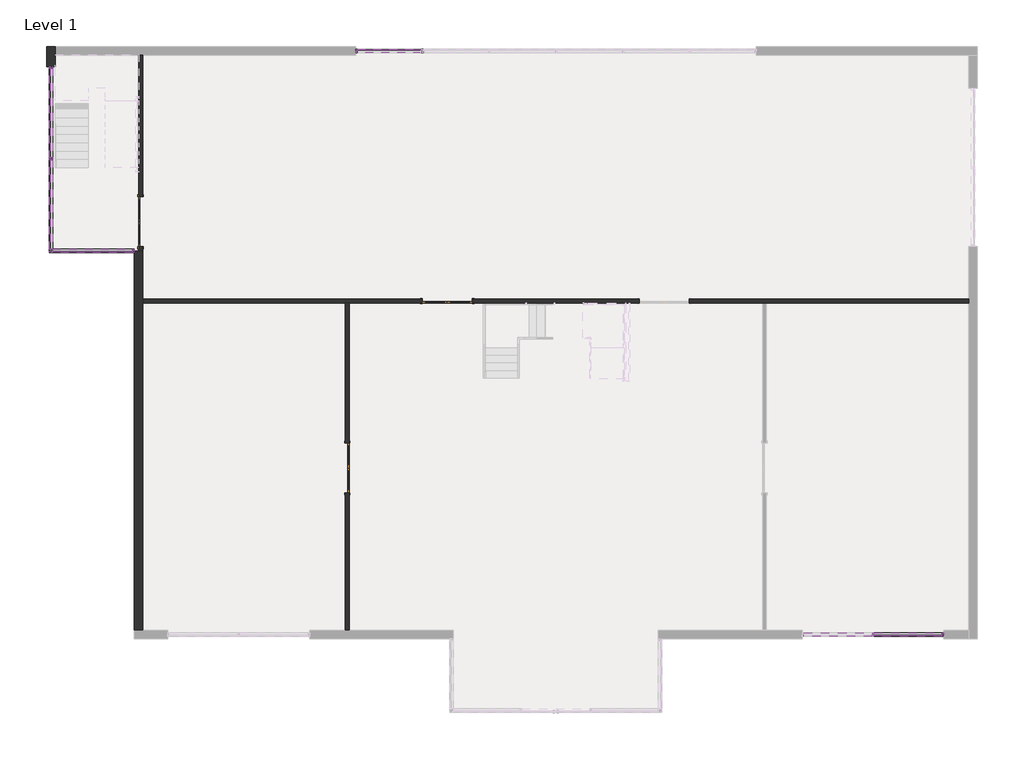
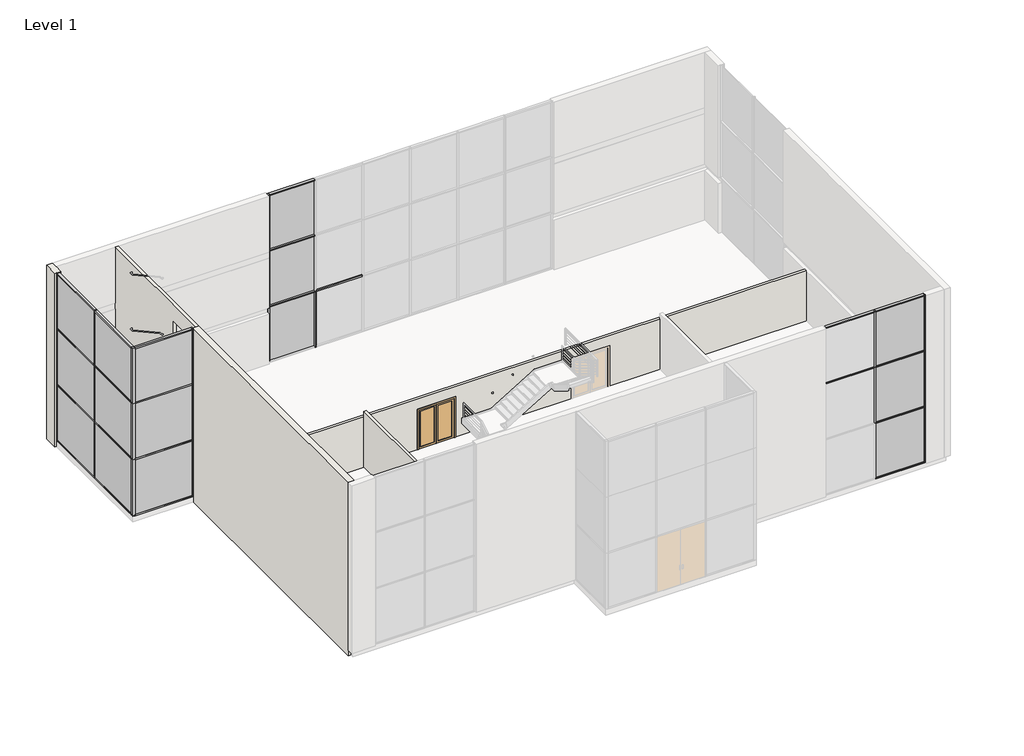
# One storey, part 2 of 7: 50 members, 15 plates, 5 walls, 3 doors.
"""IFC4 building model written with IfcOpenShell, lengths in millimetres."""

from ifc_helpers import new_model, si_unit, origin, place, context, project, spatial, faceted_brep, transform, mapped, element, save
from components import door_cb31edf2, door_3f2f997e, member_092dde94, member_230d3ecf, member_4c95cb00, member_eaba9652, member_3f395ae9, member_b6766b59, member_5ef46571, member_2d82c926, member_728bf22d, member_bbfb4d53, member_051d43dc, member_13b0e0f4, member_a25cc450, member_d457d5cf, member_2ed7bf35, member_11459e8a, member_2d95a7ea, member_6c7b7f5c, system_panel_glazed_54eba105, system_panel_glazed_2b873caf, system_panel_glazed_26911bd7, system_panel_glazed_ddc2896f, system_panel_glazed_01310f2f, system_panel_glazed_8a0dce87, system_panel_glazed_d08b41f0, system_panel_glazed_ece86c27

model = new_model("IFC4")

# Units and contexts
model_context = context("Model", 3, world=origin())
ifc_project = project(units=[si_unit("LENGTHUNIT", "METRE", prefix="MILLI")], contexts=[model_context])

# Site, building, storey
site = spatial("IfcSite", under=ifc_project)
building = spatial("IfcBuilding", under=site)
storey = spatial("IfcBuildingStorey", under=building, Name="Level 1", Elevation=0.0)

# Doors
placement = place(None, origin())
door_shape = door_cb31edf2(model_context)
element("IfcDoor", 1, ObjectType="Door-Double-Glass : 72\" x 84\"", at=placement, inside=storey, context=model_context, shape_type="MappedRepresentation", body=[
    mapped(door_shape, transform((-18248.748632, 9505.1983604, 0.0), x_axis=(0.0, 1.0, 0.0), y_axis=(-1.0, 0.0, 0.0), z_axis=(0.0, 0.0, 1.0))),
])
door_2_shape = door_3f2f997e(model_context)
element("IfcDoor", 2, ObjectType="Door-Double-Glass : 72\" x 84\"", at=placement, inside=storey, context=model_context, shape_type="MappedRepresentation", body=[
    mapped(door_2_shape, transform((-10711.298632, 513.5983604, 0.0), x_axis=(0.0, -1.0, 0.0), y_axis=(1.0, 0.0, 0.0), z_axis=(0.0, 0.0, 1.0))),
])
element("IfcDoor", 3, ObjectType="Door-Double-Glass : 72\" x 84\"", at=placement, inside=storey, context=model_context, shape_type="MappedRepresentation", body=[
    mapped(door_2_shape, transform((-7051.317382, 6611.9796104, 0.0), x_axis=(-1.0, 0.0, 0.0), y_axis=(0.0, -1.0, 0.0), z_axis=(0.0, 0.0, 1.0))),
])

# Members
member_shape = member_092dde94(model_context)
element("IfcMember", 4, ObjectType="Quad Corner Mullion : 5\" x 5\" Quad Corner", at=placement, inside=storey, context=model_context, shape_type="MappedRepresentation", body=[
    mapped(member_shape, transform((-21532.492382, 8438.3983604, 31.75), x_axis=(-1.0, 0.0, 0.0), y_axis=(0.0, 1.0, 0.0), z_axis=(0.0, 0.0, -1.0))),
])
element("IfcMember", 5, ObjectType="Quad Corner Mullion : 5\" x 5\" Quad Corner", at=placement, inside=storey, context=model_context, shape_type="MappedRepresentation", body=[
    mapped(member_shape, transform((-21532.492382, 8438.3983604, 3079.75), x_axis=(-1.0, 0.0, 0.0), y_axis=(0.0, 1.0, 0.0), z_axis=(0.0, 0.0, -1.0))),
])
member_2_shape = member_230d3ecf(model_context)
element("IfcMember", 6, ObjectType="Quad Corner Mullion : 5\" x 5\" Quad Corner", at=placement, inside=storey, context=model_context, shape_type="MappedRepresentation", body=[
    mapped(member_2_shape, transform((-21532.492382, 8438.3983604, 0.0), x_axis=(-1.0, 0.0, 0.0), y_axis=(0.0, 1.0, 0.0), z_axis=(0.0, 0.0, -1.0))),
])
member_3_shape = member_4c95cb00(model_context)
element("IfcMember", 7, ObjectType="Quad Corner Mullion : 5\" x 5\" Quad Corner", at=placement, inside=storey, context=model_context, shape_type="MappedRepresentation", body=[
    mapped(member_3_shape, transform((-21532.492382, 8438.3983604, 6127.75), x_axis=(-1.0, 0.0, 0.0), y_axis=(0.0, 1.0, 0.0), z_axis=(0.0, 0.0, -1.0))),
])
member_4_shape = member_eaba9652(model_context)
element("IfcMember", 8, ObjectType="Rectangular Mullion : 2.5\" x 5\" rectangular", at=placement, inside=storey, context=model_context, shape_type="MappedRepresentation", body=[
    mapped(member_4_shape, transform((-7965.7173818, 15753.5983604, 0.0), x_axis=(-1.0, 0.0, 0.0), y_axis=(0.0, 1.0, 0.0), z_axis=(0.0, 0.0, -1.0))),
])
element("IfcMember", 9, ObjectType="Rectangular Mullion : 2.5\" x 5\" rectangular", at=placement, inside=storey, context=model_context, shape_type="MappedRepresentation", body=[
    mapped(member_4_shape, transform((8493.482618, -5582.4016396, 3048.0), x_axis=(1.0, 0.0, 0.0), y_axis=(0.0, -1.0, 0.0), z_axis=(0.0, 0.0, -1.0))),
])
element("IfcMember", 10, ObjectType="Rectangular Mullion : 2.5\" x 5\" rectangular", at=placement, inside=storey, context=model_context, shape_type="MappedRepresentation", body=[
    mapped(member_4_shape, transform((-21532.492382, 11807.0733604, 31.75), x_axis=(0.0, -1.0, 0.0), y_axis=(-1.0, 0.0, 0.0), z_axis=(0.0, 0.0, -1.0))),
])
element("IfcMember", 11, ObjectType="Rectangular Mullion : 2.5\" x 5\" rectangular", at=placement, inside=storey, context=model_context, shape_type="MappedRepresentation", body=[
    mapped(member_4_shape, transform((-21532.492382, 11807.0733604, 3079.75), x_axis=(0.0, -1.0, 0.0), y_axis=(-1.0, 0.0, 0.0), z_axis=(0.0, 0.0, -1.0))),
])
element("IfcMember", 12, ObjectType="Rectangular Mullion : 2.5\" x 5\" rectangular", at=placement, inside=storey, context=model_context, shape_type="MappedRepresentation", body=[
    mapped(member_4_shape, transform((8493.482618, -5582.4016396, 6096.0), x_axis=(1.0, 0.0, 0.0), y_axis=(0.0, -1.0, 0.0), z_axis=(0.0, 0.0, -1.0))),
])
member_5_shape = member_3f395ae9(model_context)
element("IfcMember", 13, ObjectType="Rectangular Mullion : 2.5\" x 5\" rectangular", at=placement, inside=storey, context=model_context, shape_type="MappedRepresentation", body=[
    mapped(member_5_shape, transform((-10404.117382, 15753.5983604, 0.0), x_axis=(-1.0, 0.0, 0.0), y_axis=(0.0, 1.0, 0.0), z_axis=(0.0, 0.0, -1.0))),
])
element("IfcMember", 14, ObjectType="Rectangular Mullion : 2.5\" x 5\" rectangular", at=placement, inside=storey, context=model_context, shape_type="MappedRepresentation", body=[
    mapped(member_5_shape, transform((11084.282618, -5582.4016396, 0.0), x_axis=(1.0, 0.0, 0.0), y_axis=(0.0, -1.0, 0.0), z_axis=(0.0, 0.0, -1.0))),
])
element("IfcMember", 15, ObjectType="Rectangular Mullion : 2.5\" x 5\" rectangular", at=placement, inside=storey, context=model_context, shape_type="MappedRepresentation", body=[
    mapped(member_5_shape, transform((-10404.117382, 15753.5983604, 3048.0), x_axis=(-1.0, 0.0, 0.0), y_axis=(0.0, 1.0, 0.0), z_axis=(0.0, 0.0, -1.0))),
])
element("IfcMember", 16, ObjectType="Rectangular Mullion : 2.5\" x 5\" rectangular", at=placement, inside=storey, context=model_context, shape_type="MappedRepresentation", body=[
    mapped(member_5_shape, transform((11084.282618, -5582.4016396, 3048.0), x_axis=(1.0, 0.0, 0.0), y_axis=(0.0, -1.0, 0.0), z_axis=(0.0, 0.0, -1.0))),
])
element("IfcMember", 17, ObjectType="Rectangular Mullion : 2.5\" x 5\" rectangular", at=placement, inside=storey, context=model_context, shape_type="MappedRepresentation", body=[
    mapped(member_5_shape, transform((-10404.117382, 15753.5983604, 6096.0), x_axis=(-1.0, 0.0, 0.0), y_axis=(0.0, 1.0, 0.0), z_axis=(0.0, 0.0, -1.0))),
])
element("IfcMember", 18, ObjectType="Rectangular Mullion : 2.5\" x 5\" rectangular", at=placement, inside=storey, context=model_context, shape_type="MappedRepresentation", body=[
    mapped(member_5_shape, transform((11084.282618, -5582.4016396, 6096.0), x_axis=(1.0, 0.0, 0.0), y_axis=(0.0, -1.0, 0.0), z_axis=(0.0, 0.0, -1.0))),
])
element("IfcMember", 19, ObjectType="Rectangular Mullion : 2.5\" x 5\" rectangular", at=placement, inside=storey, context=model_context, shape_type="MappedRepresentation", body=[
    mapped(member_5_shape, transform((-21532.492382, 15175.7483604, 3079.75), x_axis=(0.0, 1.0, 0.0), y_axis=(-1.0, 0.0, 0.0), z_axis=(0.0, 0.0, 1.0))),
])
element("IfcMember", 20, ObjectType="Rectangular Mullion : 2.5\" x 5\" rectangular", at=placement, inside=storey, context=model_context, shape_type="MappedRepresentation", body=[
    mapped(member_5_shape, transform((-21532.492382, 15175.7483604, 6127.75), x_axis=(0.0, 1.0, 0.0), y_axis=(-1.0, 0.0, 0.0), z_axis=(0.0, 0.0, 1.0))),
])
element("IfcMember", 21, ObjectType="Rectangular Mullion : 2.5\" x 5\" rectangular", at=placement, inside=storey, context=model_context, shape_type="MappedRepresentation", body=[
    mapped(member_5_shape, transform((-18484.492382, 8438.3983604, 3079.75), x_axis=(1.0, 0.0, 0.0), y_axis=(0.0, 1.0, 0.0), z_axis=(0.0, 0.0, 1.0))),
])
element("IfcMember", 22, ObjectType="Rectangular Mullion : 2.5\" x 5\" rectangular", at=placement, inside=storey, context=model_context, shape_type="MappedRepresentation", body=[
    mapped(member_5_shape, transform((-18484.492382, 8438.3983604, 6127.75), x_axis=(1.0, 0.0, 0.0), y_axis=(0.0, 1.0, 0.0), z_axis=(0.0, 0.0, 1.0))),
])
member_6_shape = member_b6766b59(model_context)
element("IfcMember", 23, ObjectType="Rectangular Mullion : 2.5\" x 5\" rectangular", at=placement, inside=storey, context=model_context, shape_type="MappedRepresentation", body=[
    mapped(member_6_shape, transform((11020.782618, -5582.4016396, 9144.0), x_axis=(0.0, 0.0, 1.0), y_axis=(0.0, -1.0, 0.0), z_axis=(1.0, 0.0, 0.0))),
])
element("IfcMember", 24, ObjectType="Rectangular Mullion : 2.5\" x 5\" rectangular", at=placement, inside=storey, context=model_context, shape_type="MappedRepresentation", body=[
    mapped(member_6_shape, transform((8461.732618, -5582.4016396, 9144.0), x_axis=(0.0, 0.0, 1.0), y_axis=(0.0, -1.0, 0.0), z_axis=(1.0, 0.0, 0.0))),
])
element("IfcMember", 25, ObjectType="Rectangular Mullion : 2.5\" x 5\" rectangular", at=placement, inside=storey, context=model_context, shape_type="MappedRepresentation", body=[
    mapped(member_6_shape, transform((8525.232618, -5582.4016396, 0.0), x_axis=(0.0, 0.0, -1.0), y_axis=(0.0, -1.0, 0.0), z_axis=(-1.0, 0.0, 0.0))),
])
member_7_shape = member_5ef46571(model_context)
element("IfcMember", 26, ObjectType="Rectangular Mullion : 2.5\" x 5\" rectangular", at=placement, inside=storey, context=model_context, shape_type="MappedRepresentation", body=[
    mapped(member_7_shape, transform((11020.782618, -5582.4016396, 3048.0), x_axis=(0.0, 0.0, 1.0), y_axis=(0.0, -1.0, 0.0), z_axis=(1.0, 0.0, 0.0))),
])
element("IfcMember", 27, ObjectType="Rectangular Mullion : 2.5\" x 5\" rectangular", at=placement, inside=storey, context=model_context, shape_type="MappedRepresentation", body=[
    mapped(member_7_shape, transform((8461.732618, -5582.4016396, 6096.0), x_axis=(0.0, 0.0, 1.0), y_axis=(0.0, -1.0, 0.0), z_axis=(1.0, 0.0, 0.0))),
])
element("IfcMember", 28, ObjectType="Rectangular Mullion : 2.5\" x 5\" rectangular", at=placement, inside=storey, context=model_context, shape_type="MappedRepresentation", body=[
    mapped(member_7_shape, transform((11020.782618, -5582.4016396, 6096.0), x_axis=(0.0, 0.0, 1.0), y_axis=(0.0, -1.0, 0.0), z_axis=(1.0, 0.0, 0.0))),
])
member_8_shape = member_2d82c926(model_context)
element("IfcMember", 29, ObjectType="Rectangular Mullion : 2.5\" x 5\" rectangular", at=placement, inside=storey, context=model_context, shape_type="MappedRepresentation", body=[
    mapped(member_8_shape, transform((-21532.492382, 8501.8983604, 9144.0), x_axis=(0.0, 0.0, 1.0), y_axis=(-1.0, 0.0, 0.0), z_axis=(0.0, -1.0, 0.0))),
])
element("IfcMember", 30, ObjectType="Rectangular Mullion : 2.5\" x 5\" rectangular", at=placement, inside=storey, context=model_context, shape_type="MappedRepresentation", body=[
    mapped(member_8_shape, transform((-21532.492382, 11838.8233604, 9144.0), x_axis=(0.0, 0.0, 1.0), y_axis=(-1.0, 0.0, 0.0), z_axis=(0.0, -1.0, 0.0))),
])
element("IfcMember", 31, ObjectType="Rectangular Mullion : 2.5\" x 5\" rectangular", at=placement, inside=storey, context=model_context, shape_type="MappedRepresentation", body=[
    mapped(member_8_shape, transform((-21532.492382, 15112.2483604, 0.0), x_axis=(0.0, 0.0, -1.0), y_axis=(-1.0, 0.0, 0.0), z_axis=(0.0, 1.0, 0.0))),
])
element("IfcMember", 32, ObjectType="Rectangular Mullion : 2.5\" x 5\" rectangular", at=placement, inside=storey, context=model_context, shape_type="MappedRepresentation", body=[
    mapped(member_8_shape, transform((-21532.492382, 11775.3233604, 0.0), x_axis=(0.0, 0.0, -1.0), y_axis=(-1.0, 0.0, 0.0), z_axis=(0.0, 1.0, 0.0))),
])
member_9_shape = member_728bf22d(model_context)
element("IfcMember", 33, ObjectType="Rectangular Mullion : 2.5\" x 5\" rectangular", at=placement, inside=storey, context=model_context, shape_type="MappedRepresentation", body=[
    mapped(member_9_shape, transform((-21532.492382, 11838.8233604, 31.75), x_axis=(0.0, 0.0, 1.0), y_axis=(-1.0, 0.0, 0.0), z_axis=(0.0, -1.0, 0.0))),
])
element("IfcMember", 34, ObjectType="Rectangular Mullion : 2.5\" x 5\" rectangular", at=placement, inside=storey, context=model_context, shape_type="MappedRepresentation", body=[
    mapped(member_9_shape, transform((-21532.492382, 8501.8983604, 31.75), x_axis=(0.0, 0.0, 1.0), y_axis=(-1.0, 0.0, 0.0), z_axis=(0.0, -1.0, 0.0))),
])
element("IfcMember", 35, ObjectType="Rectangular Mullion : 2.5\" x 5\" rectangular", at=placement, inside=storey, context=model_context, shape_type="MappedRepresentation", body=[
    mapped(member_9_shape, transform((-21532.492382, 11838.8233604, 3079.75), x_axis=(0.0, 0.0, 1.0), y_axis=(-1.0, 0.0, 0.0), z_axis=(0.0, -1.0, 0.0))),
])
element("IfcMember", 36, ObjectType="Rectangular Mullion : 2.5\" x 5\" rectangular", at=placement, inside=storey, context=model_context, shape_type="MappedRepresentation", body=[
    mapped(member_9_shape, transform((-21532.492382, 8501.8983604, 3079.75), x_axis=(0.0, 0.0, 1.0), y_axis=(-1.0, 0.0, 0.0), z_axis=(0.0, -1.0, 0.0))),
])
element("IfcMember", 37, ObjectType="Rectangular Mullion : 2.5\" x 5\" rectangular", at=placement, inside=storey, context=model_context, shape_type="MappedRepresentation", body=[
    mapped(member_9_shape, transform((-21532.492382, 11838.8233604, 6127.75), x_axis=(0.0, 0.0, 1.0), y_axis=(-1.0, 0.0, 0.0), z_axis=(0.0, -1.0, 0.0))),
])
element("IfcMember", 38, ObjectType="Rectangular Mullion : 2.5\" x 5\" rectangular", at=placement, inside=storey, context=model_context, shape_type="MappedRepresentation", body=[
    mapped(member_9_shape, transform((-21532.492382, 8501.8983604, 6127.75), x_axis=(0.0, 0.0, 1.0), y_axis=(-1.0, 0.0, 0.0), z_axis=(0.0, -1.0, 0.0))),
])
member_10_shape = member_bbfb4d53(model_context)
element("IfcMember", 39, ObjectType="Rectangular Mullion : 2.5\" x 5\" rectangular", at=placement, inside=storey, context=model_context, shape_type="MappedRepresentation", body=[
    mapped(member_10_shape, transform((-18484.492382, 8438.3983604, 31.75), x_axis=(1.0, 0.0, 0.0), y_axis=(0.0, 1.0, 0.0), z_axis=(0.0, 0.0, 1.0))),
])
member_11_shape = member_051d43dc(model_context)
element("IfcMember", 40, ObjectType="Rectangular Mullion : 2.5\" x 5\" rectangular", at=placement, inside=storey, context=model_context, shape_type="MappedRepresentation", body=[
    mapped(member_11_shape, transform((-21532.492382, 11807.0733604, 0.0), x_axis=(0.0, -1.0, 0.0), y_axis=(-1.0, 0.0, 0.0), z_axis=(0.0, 0.0, -1.0))),
])
element("IfcMember", 41, ObjectType="Rectangular Mullion : 2.5\" x 5\" rectangular", at=placement, inside=storey, context=model_context, shape_type="MappedRepresentation", body=[
    mapped(member_10_shape, transform((-21532.492382, 15175.7483604, 31.75), x_axis=(0.0, 1.0, 0.0), y_axis=(-1.0, 0.0, 0.0), z_axis=(0.0, 0.0, 1.0))),
])
member_12_shape = member_13b0e0f4(model_context)
element("IfcMember", 42, ObjectType="Rectangular Mullion : 2.5\" x 5\" rectangular", at=placement, inside=storey, context=model_context, shape_type="MappedRepresentation", body=[
    mapped(member_12_shape, transform((-18484.492382, 8438.3983604, 9144.0), x_axis=(1.0, 0.0, 0.0), y_axis=(0.0, 1.0, 0.0), z_axis=(0.0, 0.0, 1.0))),
])
member_13_shape = member_a25cc450(model_context)
element("IfcMember", 43, ObjectType="Rectangular Mullion : 2.5\" x 5\" rectangular", at=placement, inside=storey, context=model_context, shape_type="MappedRepresentation", body=[
    mapped(member_13_shape, transform((-21532.492382, 11807.0733604, 6127.75), x_axis=(0.0, -1.0, 0.0), y_axis=(-1.0, 0.0, 0.0), z_axis=(0.0, 0.0, -1.0))),
])
element("IfcMember", 44, ObjectType="Rectangular Mullion : 2.5\" x 5\" rectangular", at=placement, inside=storey, context=model_context, shape_type="MappedRepresentation", body=[
    mapped(member_12_shape, transform((-21532.492382, 15175.7483604, 9144.0), x_axis=(0.0, 1.0, 0.0), y_axis=(-1.0, 0.0, 0.0), z_axis=(0.0, 0.0, 1.0))),
])
member_14_shape = member_d457d5cf(model_context)
element("IfcMember", 45, ObjectType="Rectangular Mullion : 2.5\" x 5\" rectangular", at=placement, inside=storey, context=model_context, shape_type="MappedRepresentation", body=[
    mapped(member_14_shape, transform((-21468.992382, 8438.3983604, 9144.0), x_axis=(0.0, 0.0, 1.0), y_axis=(0.0, 1.0, 0.0), z_axis=(-1.0, 0.0, 0.0))),
])
element("IfcMember", 46, ObjectType="Rectangular Mullion : 2.5\" x 5\" rectangular", at=placement, inside=storey, context=model_context, shape_type="MappedRepresentation", body=[
    mapped(member_14_shape, transform((-18547.992382, 8438.3983604, 0.0), x_axis=(0.0, 0.0, -1.0), y_axis=(0.0, 1.0, 0.0), z_axis=(1.0, 0.0, 0.0))),
])
member_15_shape = member_2ed7bf35(model_context)
element("IfcMember", 47, ObjectType="Rectangular Mullion : 2.5\" x 5\" rectangular", at=placement, inside=storey, context=model_context, shape_type="MappedRepresentation", body=[
    mapped(member_15_shape, transform((-21468.992382, 8438.3983604, 31.75), x_axis=(0.0, 0.0, 1.0), y_axis=(0.0, 1.0, 0.0), z_axis=(-1.0, 0.0, 0.0))),
])
element("IfcMember", 48, ObjectType="Rectangular Mullion : 2.5\" x 5\" rectangular", at=placement, inside=storey, context=model_context, shape_type="MappedRepresentation", body=[
    mapped(member_15_shape, transform((-21468.992382, 8438.3983604, 3079.75), x_axis=(0.0, 0.0, 1.0), y_axis=(0.0, 1.0, 0.0), z_axis=(-1.0, 0.0, 0.0))),
])
element("IfcMember", 49, ObjectType="Rectangular Mullion : 2.5\" x 5\" rectangular", at=placement, inside=storey, context=model_context, shape_type="MappedRepresentation", body=[
    mapped(member_15_shape, transform((-21468.992382, 8438.3983604, 6127.75), x_axis=(0.0, 0.0, 1.0), y_axis=(0.0, 1.0, 0.0), z_axis=(-1.0, 0.0, 0.0))),
])
member_16_shape = member_11459e8a(model_context)
element("IfcMember", 50, ObjectType="Rectangular Mullion : 2.5\" x 5\" rectangular", at=placement, inside=storey, context=model_context, shape_type="MappedRepresentation", body=[
    mapped(member_16_shape, transform((-10340.617382, 15753.5983604, 9144.0), x_axis=(0.0, 0.0, 1.0), y_axis=(0.0, 1.0, 0.0), z_axis=(-1.0, 0.0, 0.0))),
])
member_17_shape = member_2d95a7ea(model_context)
element("IfcMember", 51, ObjectType="Rectangular Mullion : 2.5\" x 5\" rectangular", at=placement, inside=storey, context=model_context, shape_type="MappedRepresentation", body=[
    mapped(member_17_shape, transform((-10340.617382, 15753.5983604, 3048.0), x_axis=(0.0, 0.0, 1.0), y_axis=(0.0, 1.0, 0.0), z_axis=(-1.0, 0.0, 0.0))),
])
element("IfcMember", 52, ObjectType="Rectangular Mullion : 2.5\" x 5\" rectangular", at=placement, inside=storey, context=model_context, shape_type="MappedRepresentation", body=[
    mapped(member_17_shape, transform((-10340.617382, 15753.5983604, 6096.0), x_axis=(0.0, 0.0, 1.0), y_axis=(0.0, 1.0, 0.0), z_axis=(-1.0, 0.0, 0.0))),
])
member_18_shape = member_6c7b7f5c(model_context)
element("IfcMember", 53, ObjectType="Rectangular Mullion : 2.5\" x 5\" rectangular", at=placement, inside=storey, context=model_context, shape_type="MappedRepresentation", body=[
    mapped(member_18_shape, transform((-7933.9673818, 15753.5983604, 3048.0), x_axis=(0.0, 0.0, 1.0), y_axis=(0.0, 1.0, 0.0), z_axis=(-1.0, 0.0, 0.0))),
])

# Plates
system_panel_glazed_shape = system_panel_glazed_54eba105(model_context)
element("IfcPlate", 54, ObjectType="System Panel : Glazed", at=placement, inside=storey, context=model_context, shape_type="MappedRepresentation", body=[
    mapped(system_panel_glazed_shape, transform((9773.007618, -5582.4016396, 63.5), x_axis=(1.0, 0.0, 0.0), y_axis=(0.0, 1.0, 0.0), z_axis=(0.0, 0.0, 1.0))),
])
element("IfcPlate", 55, ObjectType="System Panel : Glazed", at=placement, inside=storey, context=model_context, shape_type="MappedRepresentation", body=[
    mapped(system_panel_glazed_shape, transform((9773.007618, -5582.4016396, 6127.75), x_axis=(1.0, 0.0, 0.0), y_axis=(0.0, 1.0, 0.0), z_axis=(0.0, 0.0, 1.0))),
])
system_panel_glazed_2_shape = system_panel_glazed_2b873caf(model_context)
element("IfcPlate", 56, ObjectType="System Panel : Glazed", at=placement, inside=storey, context=model_context, shape_type="MappedRepresentation", body=[
    mapped(system_panel_glazed_2_shape, transform((9773.007618, -5582.4016396, 3079.75), x_axis=(1.0, 0.0, 0.0), y_axis=(0.0, 1.0, 0.0), z_axis=(0.0, 0.0, 1.0))),
])
system_panel_glazed_3_shape = system_panel_glazed_26911bd7(model_context)
element("IfcPlate", 57, ObjectType="System Panel : Glazed", at=placement, inside=storey, context=model_context, shape_type="MappedRepresentation", body=[
    mapped(system_panel_glazed_3_shape, transform((-21532.492382, 13475.5358604, 63.5), x_axis=(0.0, -1.0, 0.0), y_axis=(1.0, 0.0, 0.0), z_axis=(0.0, 0.0, 1.0))),
])
element("IfcPlate", 58, ObjectType="System Panel : Glazed", at=placement, inside=storey, context=model_context, shape_type="MappedRepresentation", body=[
    mapped(system_panel_glazed_3_shape, transform((-21532.492382, 13475.5358604, 3111.5), x_axis=(0.0, -1.0, 0.0), y_axis=(1.0, 0.0, 0.0), z_axis=(0.0, 0.0, 1.0))),
])
element("IfcPlate", 59, ObjectType="System Panel : Glazed", at=placement, inside=storey, context=model_context, shape_type="MappedRepresentation", body=[
    mapped(system_panel_glazed_3_shape, transform((-21532.492382, 10138.6108604, 63.5), x_axis=(0.0, -1.0, 0.0), y_axis=(1.0, 0.0, 0.0), z_axis=(0.0, 0.0, 1.0))),
])
element("IfcPlate", 60, ObjectType="System Panel : Glazed", at=placement, inside=storey, context=model_context, shape_type="MappedRepresentation", body=[
    mapped(system_panel_glazed_3_shape, transform((-21532.492382, 10138.6108604, 3111.5), x_axis=(0.0, -1.0, 0.0), y_axis=(1.0, 0.0, 0.0), z_axis=(0.0, 0.0, 1.0))),
])
system_panel_glazed_4_shape = system_panel_glazed_ddc2896f(model_context)
element("IfcPlate", 61, ObjectType="System Panel : Glazed", at=placement, inside=storey, context=model_context, shape_type="MappedRepresentation", body=[
    mapped(system_panel_glazed_4_shape, transform((-21532.492382, 13475.5358604, 6159.5), x_axis=(0.0, -1.0, 0.0), y_axis=(1.0, 0.0, 0.0), z_axis=(0.0, 0.0, 1.0))),
])
element("IfcPlate", 62, ObjectType="System Panel : Glazed", at=placement, inside=storey, context=model_context, shape_type="MappedRepresentation", body=[
    mapped(system_panel_glazed_4_shape, transform((-21532.492382, 10138.6108604, 6159.5), x_axis=(0.0, -1.0, 0.0), y_axis=(1.0, 0.0, 0.0), z_axis=(0.0, 0.0, 1.0))),
])
system_panel_glazed_5_shape = system_panel_glazed_01310f2f(model_context)
element("IfcPlate", 63, ObjectType="System Panel : Glazed", at=placement, inside=storey, context=model_context, shape_type="MappedRepresentation", body=[
    mapped(system_panel_glazed_5_shape, transform((-20008.492382, 8438.3983604, 63.5), x_axis=(-1.0, 0.0, 0.0), y_axis=(0.0, -1.0, 0.0), z_axis=(0.0, 0.0, 1.0))),
])
element("IfcPlate", 64, ObjectType="System Panel : Glazed", at=placement, inside=storey, context=model_context, shape_type="MappedRepresentation", body=[
    mapped(system_panel_glazed_5_shape, transform((-20008.492382, 8438.3983604, 3111.5), x_axis=(-1.0, 0.0, 0.0), y_axis=(0.0, -1.0, 0.0), z_axis=(0.0, 0.0, 1.0))),
])
system_panel_glazed_6_shape = system_panel_glazed_8a0dce87(model_context)
element("IfcPlate", 65, ObjectType="System Panel : Glazed", at=placement, inside=storey, context=model_context, shape_type="MappedRepresentation", body=[
    mapped(system_panel_glazed_6_shape, transform((-20008.492382, 8438.3983604, 6159.5), x_axis=(-1.0, 0.0, 0.0), y_axis=(0.0, -1.0, 0.0), z_axis=(0.0, 0.0, 1.0))),
])
system_panel_glazed_7_shape = system_panel_glazed_d08b41f0(model_context)
element("IfcPlate", 66, ObjectType="System Panel : Glazed", at=placement, inside=storey, context=model_context, shape_type="MappedRepresentation", body=[
    mapped(system_panel_glazed_7_shape, transform((-9169.0423819, 15753.5983604, 63.5), x_axis=(-1.0, 0.0, 0.0), y_axis=(0.0, -1.0, 0.0), z_axis=(0.0, 0.0, 1.0))),
])
element("IfcPlate", 67, ObjectType="System Panel : Glazed", at=placement, inside=storey, context=model_context, shape_type="MappedRepresentation", body=[
    mapped(system_panel_glazed_7_shape, transform((-9169.0423819, 15753.5983604, 6127.75), x_axis=(-1.0, 0.0, 0.0), y_axis=(0.0, -1.0, 0.0), z_axis=(0.0, 0.0, 1.0))),
])
system_panel_glazed_8_shape = system_panel_glazed_ece86c27(model_context)
element("IfcPlate", 68, ObjectType="System Panel : Glazed", at=placement, inside=storey, context=model_context, shape_type="MappedRepresentation", body=[
    mapped(system_panel_glazed_8_shape, transform((-9169.0423819, 15753.5983604, 3079.75), x_axis=(-1.0, 0.0, 0.0), y_axis=(0.0, -1.0, 0.0), z_axis=(0.0, 0.0, 1.0))),
])

# Walls
element("IfcWall", 69, ObjectType="Exterior - EIFS on Mtl. Stud", at=placement, inside=storey, context=model_context, shape_type="Brep", body=[
    faceted_brep([(-18173.342382, 8438.3983604, 2724.15), (-18173.342382, -5426.8266396, 2724.15), (-18173.342382, -5426.8266396, 0.0), (-18173.342382, 6539.7483604, 0.0), (-18173.342382, 6679.4483604, 0.0), (-18173.342382, 8438.3983604, 0.0), (-18173.342382, 8438.3983604, 9144.0), (-18173.342382, 6679.4483604, 9144.0), (-18173.342382, 6539.7483604, 9144.0), (-18173.342382, -5426.8266396, 9144.0), (-18173.342382, -5426.8266396, 3048.0), (-18173.342382, 6539.7483604, 3048.0), (-18173.342382, 6679.4483604, 3048.0), (-18173.342382, 8438.3983604, 3048.0), (-18484.492382, -5426.8266396, 9144.0), (-18484.492382, 8438.3983604, 9144.0), (-18484.492382, 8438.3983604, 3048.0), (-18484.492382, 8438.3983604, 2724.15), (-18484.492382, 8438.3983604, 0.0), (-18484.492382, 8374.8983604, 0.0), (-18484.492382, 8374.8983604, -304.8), (-18484.492382, -5426.8266396, -304.8), (-18484.492382, -5426.8266396, 0.0), (-18338.442382, 8374.8983604, -304.8), (-18338.442382, -5426.8266396, -304.8), (-18328.917382, 8438.3983604, 9144.0), (-18338.442382, 8438.3983604, 3048.0), (-18338.442382, 8438.3983604, 2724.15), (-18328.917382, 8438.3983604, 0.0), (-18338.442382, -5426.8266396, 0.0), (-18338.442382, -5426.8266396, 2724.15), (-18338.442382, -5426.8266396, 3048.0), (-18338.442382, 8374.8983604, 0.0)], [[[0, 1, 2, 3, 4, 5]], [[6, 7, 8, 9, 10, 11, 12, 13]], [[14, 15, 16, 17, 18, 19, 20, 21, 22]], [[21, 20, 23, 24]], [[15, 25, 6, 13, 26, 27, 0, 5, 28, 18, 17, 16]], [[9, 8, 7, 6, 25, 15, 14]], [[9, 14, 22, 21, 24, 29, 2, 1, 30, 31, 10]], [[27, 30, 1, 0]], [[31, 26, 13, 12, 11, 10]], [[30, 27, 26, 31]], [[29, 32, 19, 18, 28, 5, 4, 3, 2]], [[23, 32, 29, 24]], [[32, 23, 20, 19]]]),
])
element("IfcWall", 70, ObjectType="Exterior - EIFS on Mtl. Stud", at=placement, inside=storey, context=model_context, shape_type="Brep", body=[
    faceted_brep([(-21688.067382, 15909.1733604, -304.8), (-21688.067382, 15175.7483604, -304.8), (-21688.067382, 15175.7483604, 9144.0), (-21688.067382, 15909.1733604, 9144.0), (-21376.917382, 15909.1733604, -304.8), (-21376.917382, 15909.1733604, 0.0), (-21376.917382, 15909.1733604, 9144.0), (-21376.917382, 15598.0233604, 9144.0), (-21376.917382, 15175.7483604, 9144.0), (-21376.917382, 15175.7483604, -304.8)], [[[0, 1, 2, 3]], [[4, 5, 6, 7, 8, 9]], [[1, 0, 4, 9]], [[2, 1, 9, 8]], [[3, 2, 8, 7, 6]], [[0, 3, 6, 5, 4]]]),
])
element("IfcWall", 71, ObjectType="Interior - 5 1/2\" Partition (1-hr)", at=placement, inside=storey, context=model_context, shape_type="Brep", body=[
    faceted_brep([(-6136.917382, 6539.7483604, 0.0), (-40.917382, 6539.7483604, 0.0), (-40.917382, 6539.7483604, 2133.6), (1787.882618, 6539.7483604, 2133.6), (1787.882618, 6539.7483604, 0.0), (4461.232618, 6539.7483604, 0.0), (4600.932618, 6539.7483604, 0.0), (11995.507618, 6539.7483604, 0.0), (11995.507618, 6539.7483604, 2743.2), (-18173.342382, 6539.7483604, 2743.2), (-18173.342382, 6539.7483604, 0.0), (-10778.767382, 6539.7483604, 0.0), (-10639.067382, 6539.7483604, 0.0), (-7965.717382, 6539.7483604, 0.0), (-7965.717382, 6539.7483604, 2133.6), (-6136.917382, 6539.7483604, 2133.6), (-40.917382, 6679.4483604, 2133.6), (-40.917382, 6679.4483604, 0.0), (-6136.917382, 6679.4483604, 0.0), (-6136.917382, 6679.4483604, 2133.6), (-7965.717382, 6679.4483604, 2133.6), (-7965.717382, 6679.4483604, 0.0), (-18173.342382, 6679.4483604, 0.0), (-18173.342382, 6679.4483604, 2743.2), (11995.507618, 6679.4483604, 2743.2), (11995.507618, 6679.4483604, 0.0), (1787.882618, 6679.4483604, 0.0), (1787.882618, 6679.4483604, 2133.6)], [[[0, 1, 2, 3, 4, 5, 6, 7, 8, 9, 10, 11, 12, 13, 14, 15]], [[16, 17, 18, 19, 20, 21, 22, 23, 24, 25, 26, 27]], [[22, 21, 13, 12, 11, 10]], [[26, 25, 7, 6, 5, 4]], [[18, 17, 1, 0]], [[9, 8, 24, 23]], [[8, 7, 25, 24]], [[10, 9, 23, 22]], [[14, 13, 21, 20]], [[15, 14, 20, 19]], [[0, 15, 19, 18]], [[2, 1, 17, 16]], [[3, 2, 16, 27]], [[4, 3, 27, 26]]]),
])
element("IfcWall", 72, ObjectType="Interior - 5 1/2\" Partition (1-hr)", at=placement, inside=storey, context=model_context, shape_type="Brep", body=[
    faceted_brep([(-10778.767382, -400.8016396, 2133.6), (-10778.767382, -400.8016396, 0.0), (-10778.767382, -5426.8266396, 0.0), (-10778.767382, -5426.8266396, 3048.0), (-10778.767382, -400.8016396, 3048.0), (-10778.767382, 1427.9983604, 3048.0), (-10778.767382, 6539.7483604, 3048.0), (-10778.767382, 6539.7483604, 0.0), (-10778.767382, 1427.9983604, 0.0), (-10778.767382, 1427.9983604, 2133.6), (-10639.067382, -5426.8266396, 0.0), (-10639.067382, -400.8016396, 0.0), (-10639.067382, -400.8016396, 2133.6), (-10639.067382, 1427.9983604, 2133.6), (-10639.067382, 1427.9983604, 0.0), (-10639.067382, 6539.7483604, 0.0), (-10639.067382, 6539.7483604, 3048.0), (-10639.067382, 1427.9983604, 3048.0), (-10639.067382, -400.8016396, 3048.0), (-10639.067382, -5426.8266396, 3048.0)], [[[0, 1, 2, 3, 4, 5, 6, 7, 8, 9]], [[10, 11, 12, 13, 14, 15, 16, 17, 18, 19]], [[8, 7, 15, 14]], [[2, 1, 11, 10]], [[6, 5, 4, 3, 19, 18, 17, 16]], [[3, 2, 10, 19]], [[7, 6, 16, 15]], [[12, 11, 1, 0]], [[13, 12, 0, 9]], [[14, 13, 9, 8]]]),
])
element("IfcWall", 73, ObjectType="Interior - 6 1/8\" Partition (2-hr)", at=placement, inside=storey, context=model_context, shape_type="Brep", body=[
    faceted_brep([(-18173.342382, 10419.5983604, 2133.6), (-18173.342382, 10419.5983604, 0.0), (-18173.342382, 15598.0233604, 0.0), (-18173.342382, 15598.0233604, 9144.0), (-18173.342382, 8438.3983604, 9144.0), (-18173.342382, 8438.3983604, 3048.0), (-18173.342382, 8438.3983604, 2724.15), (-18173.342382, 8438.3983604, 0.0), (-18173.342382, 8590.7983604, 0.0), (-18173.342382, 8590.7983604, 2133.6), (-18173.342382, 8590.7983604, 3048.0), (-18173.342382, 8590.7983604, 5181.6), (-18173.342382, 10419.5983604, 5181.6), (-18173.342382, 10419.5983604, 3048.0), (-18173.342382, 8590.7983604, 6096.0), (-18173.342382, 8590.7983604, 8229.6), (-18173.342382, 10419.5983604, 8229.6), (-18173.342382, 10419.5983604, 6096.0), (-18328.917382, 15598.0233604, 0.0), (-18328.917382, 10419.5983604, 0.0), (-18328.917382, 10419.5983604, 2133.6), (-18328.917382, 8590.7983604, 2133.6), (-18328.917382, 8590.7983604, 0.0), (-18328.917382, 8438.3983604, 0.0), (-18328.917382, 8438.3983604, 9144.0), (-18328.917382, 15598.0233604, 9144.0), (-18328.917382, 8590.7983604, 3048.0), (-18328.917382, 10419.5983604, 3048.0), (-18328.917382, 10419.5983604, 5181.6), (-18328.917382, 8590.7983604, 5181.6), (-18328.917382, 8590.7983604, 6096.0), (-18328.917382, 10419.5983604, 6096.0), (-18328.917382, 10419.5983604, 8229.6), (-18328.917382, 8590.7983604, 8229.6)], [[[0, 1, 2, 3, 4, 5, 6, 7, 8, 9], [10, 11, 12, 13], [14, 15, 16, 17]], [[18, 19, 20, 21, 22, 23, 24, 25], [26, 27, 28, 29], [30, 31, 32, 33]], [[8, 7, 23, 22]], [[2, 1, 19, 18]], [[4, 3, 25, 24]], [[7, 6, 5, 4, 24, 23]], [[3, 2, 18, 25]], [[20, 19, 1, 0]], [[21, 20, 0, 9]], [[22, 21, 9, 8]], [[27, 26, 10, 13]], [[28, 27, 13, 12]], [[29, 28, 12, 11]], [[26, 29, 11, 10]], [[31, 30, 14, 17]], [[32, 31, 17, 16]], [[33, 32, 16, 15]], [[30, 33, 15, 14]]]),
])

save(model, "model.ifc")
